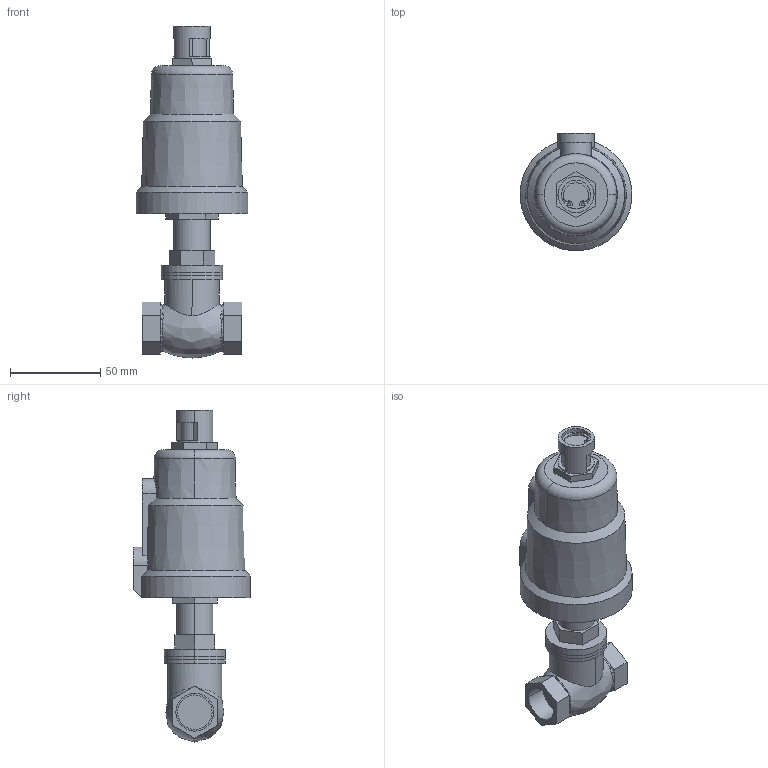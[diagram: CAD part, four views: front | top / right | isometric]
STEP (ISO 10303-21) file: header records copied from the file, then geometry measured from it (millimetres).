
FILE_DESCRIPTION((''),'2;1');
FILE_NAME('SB_KLAPAN_ASM','2024-06-08T',('AMD'),(''),'PRO/ENGINEER BY PARAMETRIC TECHNOLOGY CORPORATION, 2008020','PRO/ENGINEER BY PARAMETRIC TECHNOLOGY CORPORATION, 2008020','');
FILE_SCHEMA(('CONFIG_CONTROL_DESIGN'));
Length unit declared in the file: millimetre
Products named in the file (5): KLAPAN; UPLOTNENIE; KOLCO_16_GOST13943; KOLCO_52_GOST13943; SB_KLAPAN_ASM
Assembly tree (4 placements, depth 2):
  SB_KLAPAN_ASM
    KLAPAN
    UPLOTNENIE
    KOLCO_16_GOST13943
    KOLCO_52_GOST13943
Bounding box: 61.93 x 64.89 x 184 mm (x, y, z)
Volume: 241266.8 mm3; surface area: 39899.3 mm2
Topology: 4 solids, 8 shells, 189 faces, 464 edges, 300 vertices
Faces by surface type: plane 87, cylinder 69, torus 14, bspline 14, cone 5
Entity records: 6821 total; most frequent: CARTESIAN_POINT 2150, DIRECTION 1004, ORIENTED_EDGE 912, EDGE_CURVE 464, AXIS2_PLACEMENT_3D 395, VERTEX_POINT 300, EDGE_LOOP 216, VECTOR 214
